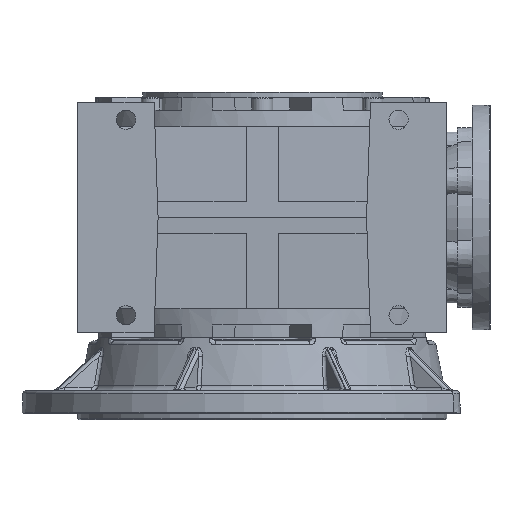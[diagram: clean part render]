
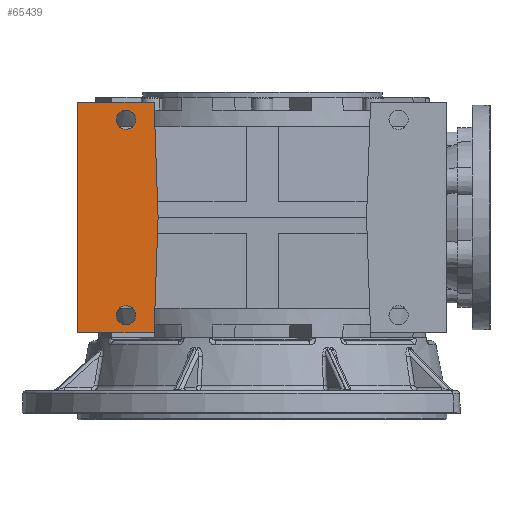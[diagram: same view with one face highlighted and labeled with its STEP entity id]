
A CAD part, front view. The second image highlights one B-rep face of the part: STEP entity #65439.
In plain terms, the highlighted planar face has unit normal (0, -1, 0).
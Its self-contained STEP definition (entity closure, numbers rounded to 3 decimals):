
#705 = ORIENTED_EDGE ( 'NONE', *, *, #82290, .T. ) ;
#1090 = CARTESIAN_POINT ( 'NONE',  ( -85., -165., 61. ) ) ;
#1536 = ORIENTED_EDGE ( 'NONE', *, *, #10387, .F. ) ;
#1649 = CIRCLE ( 'NONE', #75679, 6. ) ;
#1699 = DIRECTION ( 'NONE',  ( 0., 0., 1. ) ) ;
#2005 = AXIS2_PLACEMENT_3D ( 'NONE', #51898, #3727, #58567 ) ;
#2818 = DIRECTION ( 'NONE',  ( 0., -1., 0. ) ) ;
#2895 = EDGE_CURVE ( 'NONE', #72914, #57637, #28164, .T. ) ;
#3675 = CARTESIAN_POINT ( 'NONE',  ( -65., -165., 0. ) ) ;
#3687 = VERTEX_POINT ( 'NONE', #28860 ) ;
#3727 = DIRECTION ( 'NONE',  ( 0., -1., 0. ) ) ;
#4274 = CARTESIAN_POINT ( 'NONE',  ( -115., -165., 72. ) ) ;
#4644 = VERTEX_POINT ( 'NONE', #3675 ) ;
#5026 = CARTESIAN_POINT ( 'NONE',  ( -65., -165., 0. ) ) ;
#5165 = DIRECTION ( 'NONE',  ( 0., -1., 0. ) ) ;
#8977 = VECTOR ( 'NONE', #44731, 1000. ) ;
#10387 = EDGE_CURVE ( 'NONE', #18444, #25777, #1649, .T. ) ;
#11236 = FACE_BOUND ( 'NONE', #57572, .T. ) ;
#12609 = CARTESIAN_POINT ( 'NONE',  ( -65., -165., 0. ) ) ;
#14331 = ORIENTED_EDGE ( 'NONE', *, *, #79666, .T. ) ;
#16914 = CARTESIAN_POINT ( 'NONE',  ( -79., -165., -61. ) ) ;
#17217 = VECTOR ( 'NONE', #37315, 1000. ) ;
#18237 = ORIENTED_EDGE ( 'NONE', *, *, #41925, .F. ) ;
#18444 = VERTEX_POINT ( 'NONE', #38105 ) ;
#20281 = DIRECTION ( 'NONE',  ( 1., 0., 0. ) ) ;
#20561 = CARTESIAN_POINT ( 'NONE',  ( -115., -165., -72. ) ) ;
#21299 = CARTESIAN_POINT ( 'NONE',  ( -115., -165., -78. ) ) ;
#24252 = ORIENTED_EDGE ( 'NONE', *, *, #58568, .F. ) ;
#24623 = FACE_BOUND ( 'NONE', #42049, .T. ) ;
#24672 = DIRECTION ( 'NONE',  ( -0.035, 0., 0.999 ) ) ;
#25777 = VERTEX_POINT ( 'NONE', #73631 ) ;
#26111 = CARTESIAN_POINT ( 'NONE',  ( -67.514, -165., 72. ) ) ;
#26181 = EDGE_CURVE ( 'NONE', #52520, #59598, #62769, .T. ) ;
#27615 = VECTOR ( 'NONE', #24672, 1000. ) ;
#28164 = CIRCLE ( 'NONE', #78032, 6. ) ;
#28269 = DIRECTION ( 'NONE',  ( 0., -1., 0. ) ) ;
#28860 = CARTESIAN_POINT ( 'NONE',  ( -67.514, -165., -72. ) ) ;
#30002 = DIRECTION ( 'NONE',  ( 1., 0., 0. ) ) ;
#32133 = DIRECTION ( 'NONE',  ( 0., -1., 0. ) ) ;
#32718 = EDGE_LOOP ( 'NONE', ( #705, #24252, #14331, #34588, #86474 ) ) ;
#33475 = ORIENTED_EDGE ( 'NONE', *, *, #2895, .F. ) ;
#34588 = ORIENTED_EDGE ( 'NONE', *, *, #54309, .F. ) ;
#37315 = DIRECTION ( 'NONE',  ( 1., 0., 0. ) ) ;
#38105 = CARTESIAN_POINT ( 'NONE',  ( -91., -165., 61. ) ) ;
#39382 = LINE ( 'NONE', #5026, #61696 ) ;
#41925 = EDGE_CURVE ( 'NONE', #25777, #18444, #86183, .T. ) ;
#42049 = EDGE_LOOP ( 'NONE', ( #18237, #1536 ) ) ;
#43829 = LINE ( 'NONE', #51865, #8977 ) ;
#43967 = CARTESIAN_POINT ( 'NONE',  ( -115., -165., 72. ) ) ;
#44731 = DIRECTION ( 'NONE',  ( 1., 0., 0. ) ) ;
#44857 = LINE ( 'NONE', #43967, #17217 ) ;
#49189 = AXIS2_PLACEMENT_3D ( 'NONE', #1090, #28269, #20281 ) ;
#50106 = CARTESIAN_POINT ( 'NONE',  ( -115., -165., -78. ) ) ;
#51865 = CARTESIAN_POINT ( 'NONE',  ( -119.5, -165., -72. ) ) ;
#51898 = CARTESIAN_POINT ( 'NONE',  ( -85., -165., -61. ) ) ;
#52520 = VERTEX_POINT ( 'NONE', #20561 ) ;
#54309 = EDGE_CURVE ( 'NONE', #59598, #67342, #44857, .T. ) ;
#56761 = PLANE ( 'NONE',  #76917 ) ;
#57572 = EDGE_LOOP ( 'NONE', ( #61392, #33475 ) ) ;
#57637 = VERTEX_POINT ( 'NONE', #16914 ) ;
#58567 = DIRECTION ( 'NONE',  ( 1., 0., 0. ) ) ;
#58568 = EDGE_CURVE ( 'NONE', #4644, #3687, #39382, .T. ) ;
#59569 = DIRECTION ( 'NONE',  ( 1., 0., 0. ) ) ;
#59598 = VERTEX_POINT ( 'NONE', #4274 ) ;
#59902 = EDGE_CURVE ( 'NONE', #57637, #72914, #66092, .T. ) ;
#61392 = ORIENTED_EDGE ( 'NONE', *, *, #59902, .F. ) ;
#61696 = VECTOR ( 'NONE', #85317, 1000. ) ;
#62769 = LINE ( 'NONE', #21299, #78983 ) ;
#65439 = ADVANCED_FACE ( 'NONE', ( #24623, #11236, #65643 ), #56761, .T. ) ;
#65643 = FACE_OUTER_BOUND ( 'NONE', #32718, .T. ) ;
#66092 = CIRCLE ( 'NONE', #2005, 6. ) ;
#66565 = LINE ( 'NONE', #12609, #27615 ) ;
#67342 = VERTEX_POINT ( 'NONE', #26111 ) ;
#72404 = CARTESIAN_POINT ( 'NONE',  ( -91., -165., -61. ) ) ;
#72914 = VERTEX_POINT ( 'NONE', #72404 ) ;
#73583 = CARTESIAN_POINT ( 'NONE',  ( -85., -165., 61. ) ) ;
#73631 = CARTESIAN_POINT ( 'NONE',  ( -79., -165., 61. ) ) ;
#75679 = AXIS2_PLACEMENT_3D ( 'NONE', #73583, #32133, #86538 ) ;
#76917 = AXIS2_PLACEMENT_3D ( 'NONE', #50106, #2818, #30002 ) ;
#78032 = AXIS2_PLACEMENT_3D ( 'NONE', #79205, #5165, #59569 ) ;
#78983 = VECTOR ( 'NONE', #1699, 1000. ) ;
#79205 = CARTESIAN_POINT ( 'NONE',  ( -85., -165., -61. ) ) ;
#79666 = EDGE_CURVE ( 'NONE', #4644, #67342, #66565, .T. ) ;
#82290 = EDGE_CURVE ( 'NONE', #52520, #3687, #43829, .T. ) ;
#85317 = DIRECTION ( 'NONE',  ( -0.035, 0., -0.999 ) ) ;
#86183 = CIRCLE ( 'NONE', #49189, 6. ) ;
#86474 = ORIENTED_EDGE ( 'NONE', *, *, #26181, .F. ) ;
#86538 = DIRECTION ( 'NONE',  ( 1., 0., 0. ) ) ;
